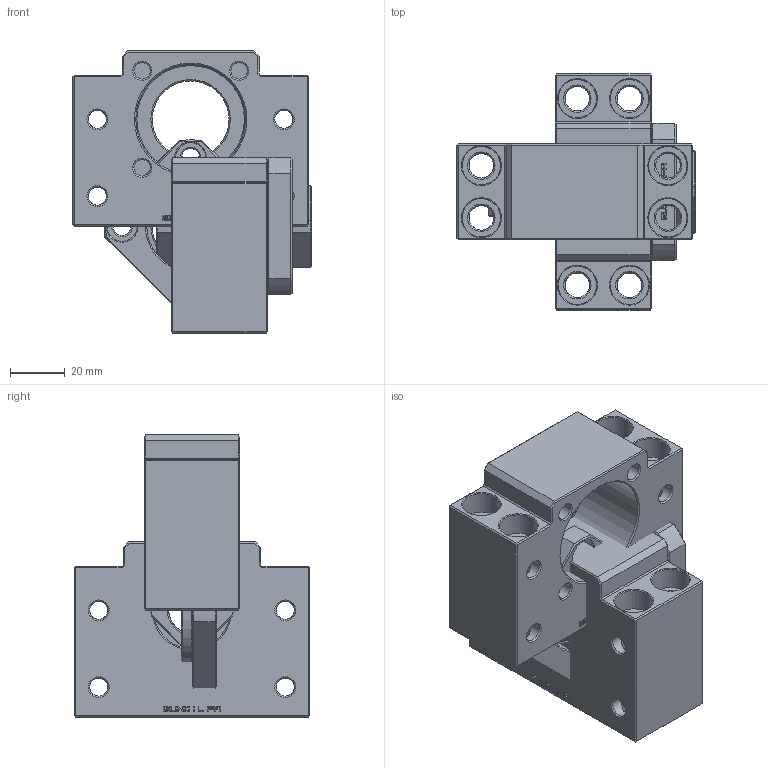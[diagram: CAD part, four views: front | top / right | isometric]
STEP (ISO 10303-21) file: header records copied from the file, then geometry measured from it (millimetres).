
FILE_DESCRIPTION( ( 'Unknown' ), '1' );
FILE_NAME( 'D:/3D/憮んお嶸棉/20060119/SBK TYPE/SBK17/SBK17.stp', 'Unknown', ( 'Unknown' ), ( 'Unknown' ), 'XStep 1.0', 'Unknown', ' ' );
FILE_SCHEMA( ( 'CONFIG_CONTROL_DESIGN' ) );
Length unit declared in the file: millimetre
Products named in the file (10): Assem1; SBK17(collar); SBK17(seal); SBK17(bearing); SBK17(housing); SBK17(holdinglid); SBK17(locknut)
Bounding box: 87 x 86 x 103 mm (x, y, z)
Volume: 336257 mm3; surface area: 108158.6 mm2
Topology: 18 solids, 18 shells, 1494 faces, 3912 edges, 2536 vertices
Faces by surface type: plane 726, cylinder 584, cone 180, torus 2, bspline 2
Full cylindrical faces by diameter (mm): 4 x2, 6 x8, 6.6 x32, 9 x8, 11 x8, 14 x8, 17 x10, 22 x8, 28 x8, 32 x2, 40 x8
Entity records: 23758 total; most frequent: CARTESIAN_POINT 5104, DIRECTION 3901, ORIENTED_EDGE 3576, EDGE_CURVE 1788, AXIS2_PLACEMENT_3D 1419, VERTEX_POINT 1223, LINE 1063, VECTOR 1063
